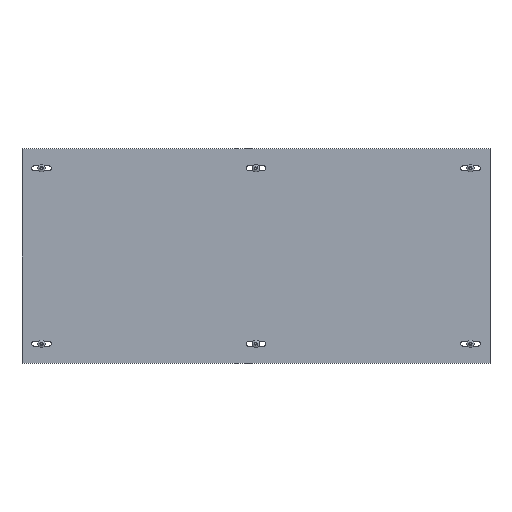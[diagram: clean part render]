
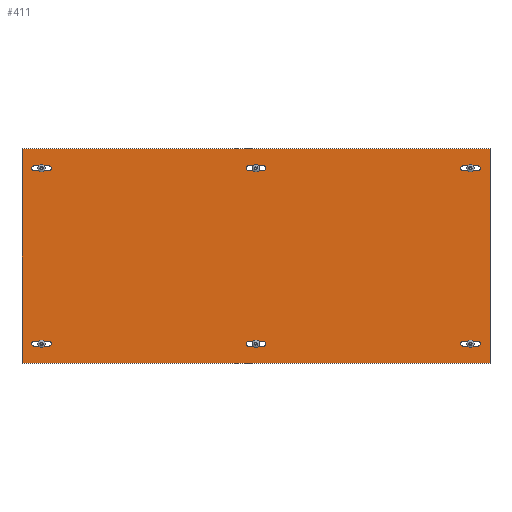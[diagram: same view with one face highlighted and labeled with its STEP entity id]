
A CAD part, top view. The second image highlights one B-rep face of the part: STEP entity #411.
In plain terms, the highlighted planar face has unit normal (0, 0, 1).
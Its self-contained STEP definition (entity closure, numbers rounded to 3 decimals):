
#63 = EDGE_CURVE('',#64,#66,#68,.T.);
#64 = VERTEX_POINT('',#65);
#65 = CARTESIAN_POINT('',(-300.,137.5,0.));
#66 = VERTEX_POINT('',#67);
#67 = CARTESIAN_POINT('',(-300.,-137.5,0.));
#68 = LINE('',#69,#70);
#69 = CARTESIAN_POINT('',(-300.,-137.5,0.));
#70 = VECTOR('',#71,1.);
#71 = DIRECTION('',(-0.,-1.,-0.));
#103 = EDGE_CURVE('',#104,#64,#106,.T.);
#104 = VERTEX_POINT('',#105);
#105 = CARTESIAN_POINT('',(300.,137.5,0.));
#106 = LINE('',#107,#108);
#107 = CARTESIAN_POINT('',(300.,137.5,0.));
#108 = VECTOR('',#109,1.);
#109 = DIRECTION('',(-1.,0.,0.));
#134 = EDGE_CURVE('',#135,#104,#137,.T.);
#135 = VERTEX_POINT('',#136);
#136 = CARTESIAN_POINT('',(300.,-137.5,0.));
#137 = LINE('',#138,#139);
#138 = CARTESIAN_POINT('',(300.,-137.5,0.));
#139 = VECTOR('',#140,1.);
#140 = DIRECTION('',(0.,1.,0.));
#165 = EDGE_CURVE('',#66,#135,#166,.T.);
#166 = LINE('',#167,#168);
#167 = CARTESIAN_POINT('',(300.,-137.5,0.));
#168 = VECTOR('',#169,1.);
#169 = DIRECTION('',(1.,0.,-0.));
#411 = ADVANCED_FACE('',(#412,#448,#484,#520,#556,#592,#628),#634,.T.);
#412 = FACE_BOUND('',#413,.T.);
#413 = EDGE_LOOP('',(#414,#425,#433,#442));
#414 = ORIENTED_EDGE('',*,*,#415,.F.);
#415 = EDGE_CURVE('',#416,#418,#420,.T.);
#416 = VERTEX_POINT('',#417);
#417 = CARTESIAN_POINT('',(-9.25,115.75,0.));
#418 = VERTEX_POINT('',#419);
#419 = CARTESIAN_POINT('',(-9.25,109.25,0.));
#420 = CIRCLE('',#421,3.25);
#421 = AXIS2_PLACEMENT_3D('',#422,#423,#424);
#422 = CARTESIAN_POINT('',(-9.25,112.5,0.));
#423 = DIRECTION('',(0.,0.,1.));
#424 = DIRECTION('',(1.,0.,-0.));
#425 = ORIENTED_EDGE('',*,*,#426,.F.);
#426 = EDGE_CURVE('',#427,#416,#429,.T.);
#427 = VERTEX_POINT('',#428);
#428 = CARTESIAN_POINT('',(9.25,115.75,0.));
#429 = LINE('',#430,#431);
#430 = CARTESIAN_POINT('',(-9.25,115.75,0.));
#431 = VECTOR('',#432,1.);
#432 = DIRECTION('',(-1.,-0.,-0.));
#433 = ORIENTED_EDGE('',*,*,#434,.F.);
#434 = EDGE_CURVE('',#435,#427,#437,.T.);
#435 = VERTEX_POINT('',#436);
#436 = CARTESIAN_POINT('',(9.25,109.25,0.));
#437 = CIRCLE('',#438,3.25);
#438 = AXIS2_PLACEMENT_3D('',#439,#440,#441);
#439 = CARTESIAN_POINT('',(9.25,112.5,0.));
#440 = DIRECTION('',(0.,0.,1.));
#441 = DIRECTION('',(1.,0.,-0.));
#442 = ORIENTED_EDGE('',*,*,#443,.F.);
#443 = EDGE_CURVE('',#418,#435,#444,.T.);
#444 = LINE('',#445,#446);
#445 = CARTESIAN_POINT('',(-9.25,109.25,0.));
#446 = VECTOR('',#447,1.);
#447 = DIRECTION('',(1.,0.,0.));
#448 = FACE_BOUND('',#449,.T.);
#449 = EDGE_LOOP('',(#450,#461,#469,#478));
#450 = ORIENTED_EDGE('',*,*,#451,.F.);
#451 = EDGE_CURVE('',#452,#454,#456,.T.);
#452 = VERTEX_POINT('',#453);
#453 = CARTESIAN_POINT('',(-9.25,-109.25,0.));
#454 = VERTEX_POINT('',#455);
#455 = CARTESIAN_POINT('',(-9.25,-115.75,0.));
#456 = CIRCLE('',#457,3.25);
#457 = AXIS2_PLACEMENT_3D('',#458,#459,#460);
#458 = CARTESIAN_POINT('',(-9.25,-112.5,0.));
#459 = DIRECTION('',(0.,0.,1.));
#460 = DIRECTION('',(-1.,0.,0.));
#461 = ORIENTED_EDGE('',*,*,#462,.F.);
#462 = EDGE_CURVE('',#463,#452,#465,.T.);
#463 = VERTEX_POINT('',#464);
#464 = CARTESIAN_POINT('',(9.25,-109.25,0.));
#465 = LINE('',#466,#467);
#466 = CARTESIAN_POINT('',(-9.25,-109.25,0.));
#467 = VECTOR('',#468,1.);
#468 = DIRECTION('',(-1.,-0.,-0.));
#469 = ORIENTED_EDGE('',*,*,#470,.F.);
#470 = EDGE_CURVE('',#471,#463,#473,.T.);
#471 = VERTEX_POINT('',#472);
#472 = CARTESIAN_POINT('',(9.25,-115.75,0.));
#473 = CIRCLE('',#474,3.25);
#474 = AXIS2_PLACEMENT_3D('',#475,#476,#477);
#475 = CARTESIAN_POINT('',(9.25,-112.5,0.));
#476 = DIRECTION('',(0.,0.,1.));
#477 = DIRECTION('',(-1.,0.,0.));
#478 = ORIENTED_EDGE('',*,*,#479,.F.);
#479 = EDGE_CURVE('',#454,#471,#480,.T.);
#480 = LINE('',#481,#482);
#481 = CARTESIAN_POINT('',(-9.25,-115.75,0.));
#482 = VECTOR('',#483,1.);
#483 = DIRECTION('',(1.,0.,0.));
#484 = FACE_BOUND('',#485,.T.);
#485 = EDGE_LOOP('',(#486,#497,#505,#514));
#486 = ORIENTED_EDGE('',*,*,#487,.F.);
#487 = EDGE_CURVE('',#488,#490,#492,.T.);
#488 = VERTEX_POINT('',#489);
#489 = CARTESIAN_POINT('',(-265.75,-115.75,0.));
#490 = VERTEX_POINT('',#491);
#491 = CARTESIAN_POINT('',(-265.75,-109.25,0.));
#492 = CIRCLE('',#493,3.25);
#493 = AXIS2_PLACEMENT_3D('',#494,#495,#496);
#494 = CARTESIAN_POINT('',(-265.75,-112.5,0.));
#495 = DIRECTION('',(0.,0.,1.));
#496 = DIRECTION('',(1.,0.,-0.));
#497 = ORIENTED_EDGE('',*,*,#498,.F.);
#498 = EDGE_CURVE('',#499,#488,#501,.T.);
#499 = VERTEX_POINT('',#500);
#500 = CARTESIAN_POINT('',(-284.25,-115.75,0.));
#501 = LINE('',#502,#503);
#502 = CARTESIAN_POINT('',(-265.75,-115.75,0.));
#503 = VECTOR('',#504,1.);
#504 = DIRECTION('',(1.,-0.,-0.));
#505 = ORIENTED_EDGE('',*,*,#506,.F.);
#506 = EDGE_CURVE('',#507,#499,#509,.T.);
#507 = VERTEX_POINT('',#508);
#508 = CARTESIAN_POINT('',(-284.25,-109.25,0.));
#509 = CIRCLE('',#510,3.25);
#510 = AXIS2_PLACEMENT_3D('',#511,#512,#513);
#511 = CARTESIAN_POINT('',(-284.25,-112.5,0.));
#512 = DIRECTION('',(0.,0.,1.));
#513 = DIRECTION('',(1.,0.,-0.));
#514 = ORIENTED_EDGE('',*,*,#515,.F.);
#515 = EDGE_CURVE('',#490,#507,#516,.T.);
#516 = LINE('',#517,#518);
#517 = CARTESIAN_POINT('',(-265.75,-109.25,0.));
#518 = VECTOR('',#519,1.);
#519 = DIRECTION('',(-1.,0.,0.));
#520 = FACE_BOUND('',#521,.T.);
#521 = EDGE_LOOP('',(#522,#533,#541,#550));
#522 = ORIENTED_EDGE('',*,*,#523,.F.);
#523 = EDGE_CURVE('',#524,#526,#528,.T.);
#524 = VERTEX_POINT('',#525);
#525 = CARTESIAN_POINT('',(-265.75,109.25,0.));
#526 = VERTEX_POINT('',#527);
#527 = CARTESIAN_POINT('',(-265.75,115.75,0.));
#528 = CIRCLE('',#529,3.25);
#529 = AXIS2_PLACEMENT_3D('',#530,#531,#532);
#530 = CARTESIAN_POINT('',(-265.75,112.5,0.));
#531 = DIRECTION('',(0.,0.,1.));
#532 = DIRECTION('',(-1.,0.,0.));
#533 = ORIENTED_EDGE('',*,*,#534,.F.);
#534 = EDGE_CURVE('',#535,#524,#537,.T.);
#535 = VERTEX_POINT('',#536);
#536 = CARTESIAN_POINT('',(-284.25,109.25,0.));
#537 = LINE('',#538,#539);
#538 = CARTESIAN_POINT('',(-265.75,109.25,0.));
#539 = VECTOR('',#540,1.);
#540 = DIRECTION('',(1.,0.,-0.));
#541 = ORIENTED_EDGE('',*,*,#542,.F.);
#542 = EDGE_CURVE('',#543,#535,#545,.T.);
#543 = VERTEX_POINT('',#544);
#544 = CARTESIAN_POINT('',(-284.25,115.75,0.));
#545 = CIRCLE('',#546,3.25);
#546 = AXIS2_PLACEMENT_3D('',#547,#548,#549);
#547 = CARTESIAN_POINT('',(-284.25,112.5,0.));
#548 = DIRECTION('',(0.,0.,1.));
#549 = DIRECTION('',(-1.,0.,0.));
#550 = ORIENTED_EDGE('',*,*,#551,.F.);
#551 = EDGE_CURVE('',#526,#543,#552,.T.);
#552 = LINE('',#553,#554);
#553 = CARTESIAN_POINT('',(-265.75,115.75,0.));
#554 = VECTOR('',#555,1.);
#555 = DIRECTION('',(-1.,0.,0.));
#556 = FACE_BOUND('',#557,.T.);
#557 = EDGE_LOOP('',(#558,#569,#577,#586));
#558 = ORIENTED_EDGE('',*,*,#559,.F.);
#559 = EDGE_CURVE('',#560,#562,#564,.T.);
#560 = VERTEX_POINT('',#561);
#561 = CARTESIAN_POINT('',(265.75,115.75,0.));
#562 = VERTEX_POINT('',#563);
#563 = CARTESIAN_POINT('',(265.75,109.25,0.));
#564 = CIRCLE('',#565,3.25);
#565 = AXIS2_PLACEMENT_3D('',#566,#567,#568);
#566 = CARTESIAN_POINT('',(265.75,112.5,0.));
#567 = DIRECTION('',(0.,0.,1.));
#568 = DIRECTION('',(1.,0.,-0.));
#569 = ORIENTED_EDGE('',*,*,#570,.F.);
#570 = EDGE_CURVE('',#571,#560,#573,.T.);
#571 = VERTEX_POINT('',#572);
#572 = CARTESIAN_POINT('',(284.25,115.75,0.));
#573 = LINE('',#574,#575);
#574 = CARTESIAN_POINT('',(265.75,115.75,0.));
#575 = VECTOR('',#576,1.);
#576 = DIRECTION('',(-1.,-0.,-0.));
#577 = ORIENTED_EDGE('',*,*,#578,.F.);
#578 = EDGE_CURVE('',#579,#571,#581,.T.);
#579 = VERTEX_POINT('',#580);
#580 = CARTESIAN_POINT('',(284.25,109.25,0.));
#581 = CIRCLE('',#582,3.25);
#582 = AXIS2_PLACEMENT_3D('',#583,#584,#585);
#583 = CARTESIAN_POINT('',(284.25,112.5,0.));
#584 = DIRECTION('',(0.,0.,1.));
#585 = DIRECTION('',(1.,0.,-0.));
#586 = ORIENTED_EDGE('',*,*,#587,.F.);
#587 = EDGE_CURVE('',#562,#579,#588,.T.);
#588 = LINE('',#589,#590);
#589 = CARTESIAN_POINT('',(265.75,109.25,0.));
#590 = VECTOR('',#591,1.);
#591 = DIRECTION('',(1.,0.,0.));
#592 = FACE_BOUND('',#593,.T.);
#593 = EDGE_LOOP('',(#594,#605,#613,#622));
#594 = ORIENTED_EDGE('',*,*,#595,.F.);
#595 = EDGE_CURVE('',#596,#598,#600,.T.);
#596 = VERTEX_POINT('',#597);
#597 = CARTESIAN_POINT('',(265.75,-109.25,0.));
#598 = VERTEX_POINT('',#599);
#599 = CARTESIAN_POINT('',(265.75,-115.75,0.));
#600 = CIRCLE('',#601,3.25);
#601 = AXIS2_PLACEMENT_3D('',#602,#603,#604);
#602 = CARTESIAN_POINT('',(265.75,-112.5,0.));
#603 = DIRECTION('',(0.,0.,1.));
#604 = DIRECTION('',(-1.,0.,0.));
#605 = ORIENTED_EDGE('',*,*,#606,.F.);
#606 = EDGE_CURVE('',#607,#596,#609,.T.);
#607 = VERTEX_POINT('',#608);
#608 = CARTESIAN_POINT('',(284.25,-109.25,0.));
#609 = LINE('',#610,#611);
#610 = CARTESIAN_POINT('',(265.75,-109.25,0.));
#611 = VECTOR('',#612,1.);
#612 = DIRECTION('',(-1.,-0.,-0.));
#613 = ORIENTED_EDGE('',*,*,#614,.F.);
#614 = EDGE_CURVE('',#615,#607,#617,.T.);
#615 = VERTEX_POINT('',#616);
#616 = CARTESIAN_POINT('',(284.25,-115.75,0.));
#617 = CIRCLE('',#618,3.25);
#618 = AXIS2_PLACEMENT_3D('',#619,#620,#621);
#619 = CARTESIAN_POINT('',(284.25,-112.5,0.));
#620 = DIRECTION('',(0.,0.,1.));
#621 = DIRECTION('',(-1.,0.,0.));
#622 = ORIENTED_EDGE('',*,*,#623,.F.);
#623 = EDGE_CURVE('',#598,#615,#624,.T.);
#624 = LINE('',#625,#626);
#625 = CARTESIAN_POINT('',(265.75,-115.75,0.));
#626 = VECTOR('',#627,1.);
#627 = DIRECTION('',(1.,0.,0.));
#628 = FACE_BOUND('',#629,.T.);
#629 = EDGE_LOOP('',(#630,#631,#632,#633));
#630 = ORIENTED_EDGE('',*,*,#63,.T.);
#631 = ORIENTED_EDGE('',*,*,#165,.T.);
#632 = ORIENTED_EDGE('',*,*,#134,.T.);
#633 = ORIENTED_EDGE('',*,*,#103,.T.);
#634 = PLANE('',#635);
#635 = AXIS2_PLACEMENT_3D('',#636,#637,#638);
#636 = CARTESIAN_POINT('',(0.,0.,0.));
#637 = DIRECTION('',(0.,-0.,1.));
#638 = DIRECTION('',(1.,0.,0.));
